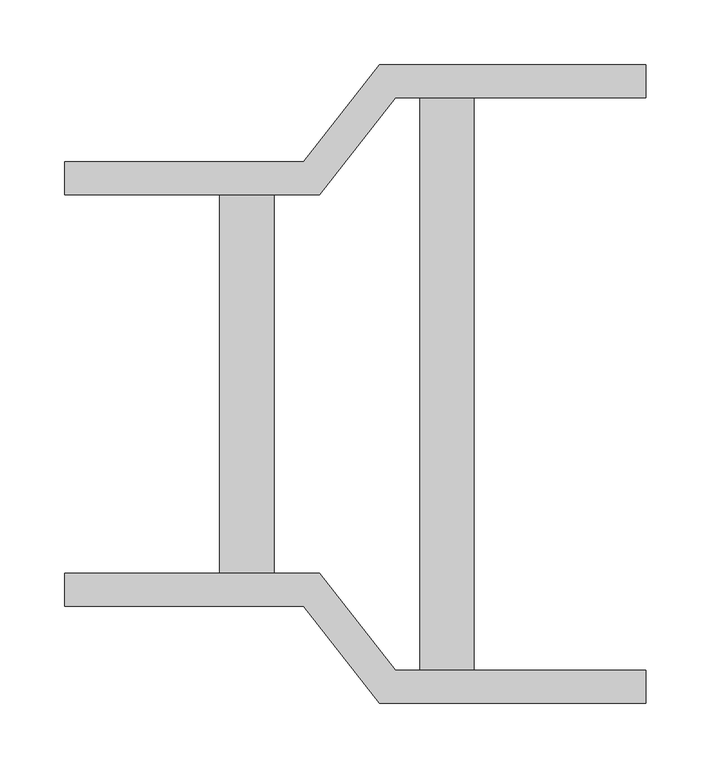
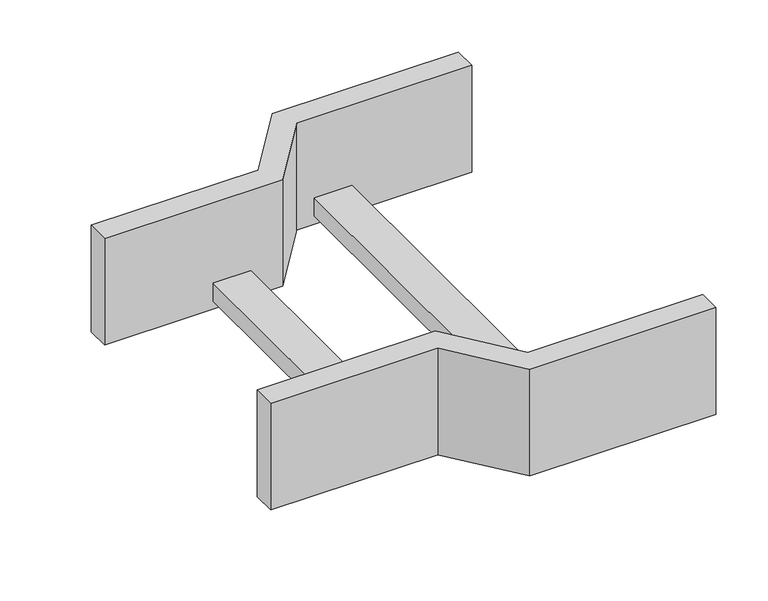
"""IFC4 building model written with IfcOpenShell, lengths in millimetres: cable carrier fitting geometry, Legrand_CableLadder_Swifts_Sapphire_Reducer-13 : Straight - Hot Dip Galvanised (after manufacture)."""

import ifcopenshell
import ifcopenshell.guid

model = None  # the IFC model being written
_history = None  # IfcOwnerHistory: only IFC2X3 demands one
_inside = {}  # id of a spatial element -> (the spatial element, [elements in it])
_under = {}  # id of a project, library or spatial element -> (it, [spatial elements below it])
_declared = {}  # id of a project -> (the project, [libraries it declares])
_typed = {}  # id of a type object -> (the type object, [elements of that type])
_made_of = {}  # id of a material, layer set ... -> (it, [elements and type objects made of it])


def new_model(schema):
    """Start an empty IFC model of exactly this schema.

    Asked for "IFC4X3", IfcOpenShell would pick the latest addendum, in which some entities
    have other attributes; the version numbers below select the first issue.
    IFC2X3 requires an IfcOwnerHistory on every rooted entity: one is made here for all.
    """
    global model, _history
    if schema == "IFC4X3":
        model = ifcopenshell.file(schema_version=(4, 3, 0, 0))
    else:
        model = ifcopenshell.file(schema=schema)
    _inside.clear()
    _under.clear()
    _declared.clear()
    _typed.clear()
    _made_of.clear()
    _history = None
    if model.schema == "IFC2X3":
        org = make("IfcOrganization", Name="unknown")
        user = make(
            "IfcPersonAndOrganization",
            ThePerson=make("IfcPerson", FamilyName="unknown"),
            TheOrganization=org,
        )
        app = make(
            "IfcApplication",
            ApplicationDeveloper=org,
            Version="unknown",
            ApplicationFullName="unknown",
            ApplicationIdentifier="unknown",
        )
        _history = make(
            "IfcOwnerHistory",
            OwningUser=user,
            OwningApplication=app,
            ChangeAction="ADDED",
            CreationDate=0,
        )
    return model


def make(cls, **values):
    """One entity of the class cls with the attributes given. An attribute that is None is left unset."""
    return model.create_entity(
        cls, **{name: value for name, value in values.items() if value is not None}
    )


def rooted(cls, **values):
    """An entity with a GlobalId (a new one), such as an element, a storey or a relation."""
    return make(cls, GlobalId=ifcopenshell.guid.new(), OwnerHistory=_history, **values)


def si_unit(unit_type, name, prefix=None):
    """IfcSIUnit, for example si_unit("LENGTHUNIT", "METRE", prefix="MILLI")."""
    return make("IfcSIUnit", UnitType=unit_type, Prefix=prefix, Name=name)


def assignment(units):
    """IfcUnitAssignment: the units of a project."""
    return None if units is None else make("IfcUnitAssignment", Units=units)


def point(xyz):
    """IfcCartesianPoint."""
    return None if xyz is None else make("IfcCartesianPoint", Coordinates=xyz)


def direction(xyz):
    """IfcDirection."""
    return None if xyz is None else make("IfcDirection", DirectionRatios=xyz)


def frame(location, z_axis=None, x_axis=None):
    """IfcAxis2Placement3D, a coordinate frame: its origin and axes. An axis left out is left unset."""
    return make(
        "IfcAxis2Placement3D",
        Location=point(location),
        Axis=direction(z_axis),
        RefDirection=direction(x_axis),
    )


def origin():
    """The frame at (0, 0, 0) with its axes left unset."""
    return frame((0.0, 0.0, 0.0))


def place(relative_to, where):
    """IfcLocalPlacement: puts the frame where relative to a parent placement (None: the world)."""
    return make(
        "IfcLocalPlacement", PlacementRelTo=relative_to, RelativePlacement=where
    )


def context(
    kind, dimensions, precision=None, world=None, true_north=None, identifier=None
):
    """IfcGeometricRepresentationContext, for example the 3D "Model" context."""
    return make(
        "IfcGeometricRepresentationContext",
        ContextIdentifier=identifier,
        ContextType=kind,
        CoordinateSpaceDimension=dimensions,
        Precision=precision,
        WorldCoordinateSystem=world,
        TrueNorth=true_north,
    )


def project(units=None, contexts=None):
    """IfcProject with its units and contexts."""
    return rooted(
        "IfcProject",
        Name="project",
        RepresentationContexts=contexts,
        UnitsInContext=assignment(units),
    )


def spatial(cls, under=None, at=None, **own):
    """A site, building, storey or space (cls), placed at a placement, below another one or the project."""
    s = rooted(cls, ObjectPlacement=at, **own)
    if under is not None:
        _under.setdefault(under.id(), (under, []))[1].append(s)
    return s


def polyline(points):
    """IfcPolyline through the points."""
    return make("IfcPolyline", Points=[point(p) for p in points])


def outline(outer, holes=None, kind="AREA"):
    """IfcArbitraryClosedProfileDef: a profile drawn as a closed curve; with holes, ...WithVoids."""
    if holes is None:
        return make("IfcArbitraryClosedProfileDef", ProfileType=kind, OuterCurve=outer)
    return make(
        "IfcArbitraryProfileDefWithVoids",
        ProfileType=kind,
        OuterCurve=outer,
        InnerCurves=holes,
    )


def extrude(swept, where, along, depth):
    """IfcExtrudedAreaSolid: the profile swept, set in the frame where, extruded along a direction by depth."""
    return make(
        "IfcExtrudedAreaSolid",
        SweptArea=swept,
        Position=where,
        ExtrudedDirection=direction(along),
        Depth=depth,
    )


def shape(context_of_items, identifier, shape_type, items):
    """IfcShapeRepresentation: the items that make up one representation, for example the "Body"."""
    return make(
        "IfcShapeRepresentation",
        ContextOfItems=context_of_items,
        RepresentationIdentifier=identifier,
        RepresentationType=shape_type,
        Items=items,
    )


def source(mapping_origin, context_of_items, identifier, shape_type, items):
    """IfcRepresentationMap: a shape defined once, which mapped items show again and again."""
    return make(
        "IfcRepresentationMap",
        MappingOrigin=mapping_origin,
        MappedRepresentation=shape(context_of_items, identifier, shape_type, items),
    )


def transform(
    local_origin,
    x_axis=None,
    y_axis=None,
    z_axis=None,
    scale=None,
    scale2=None,
    scale3=None,
    uniform=True,
):
    """IfcCartesianTransformationOperator3D, or its non-uniform kind. x_axis, y_axis, z_axis: its Axis1, 2, 3."""
    if uniform:
        return make(
            "IfcCartesianTransformationOperator3D",
            Axis1=direction(x_axis),
            Axis2=direction(y_axis),
            LocalOrigin=point(local_origin),
            Scale=scale,
            Axis3=direction(z_axis),
        )
    return make(
        "IfcCartesianTransformationOperator3DnonUniform",
        Axis1=direction(x_axis),
        Axis2=direction(y_axis),
        LocalOrigin=point(local_origin),
        Scale=scale,
        Axis3=direction(z_axis),
        Scale2=scale2,
        Scale3=scale3,
    )


def mapped(mapping_source, mapping_target):
    """IfcMappedItem: shows the shape of a source again, moved by a transform."""
    return make(
        "IfcMappedItem", MappingSource=mapping_source, MappingTarget=mapping_target
    )


def made_of(thing, what):
    """Note that an element or type object is made of a material, layer set ...; save() writes the relation."""
    if what is not None:
        _made_of.setdefault(what.id(), (what, []))[1].append(thing)
    return thing


def element(
    cls,
    number,
    at=None,
    inside=None,
    cuts=None,
    type_object=None,
    material=None,
    context=None,
    identifier="Body",
    shape_type=None,
    held_by="IfcProductDefinitionShape",
    body=None,
    shapes=None,
    **own,
):
    """One element of the class cls, such as IfcWall. Its Tag is "e" and its number.

    at: its placement. inside: the storey or other place that contains it. cuts: it is an
    opening in that element (IfcRelVoidsElement). A single representation is given by context,
    identifier, shape_type and body (its items); several are given by shapes. held_by: the class
    of the entity that holds the representations. save() writes the other relations.
    """
    e = rooted(cls, Tag="e%d" % number, ObjectPlacement=at, **own)
    if body is not None:
        shapes = [shape(context, identifier, shape_type, body)]
    if shapes is not None:
        e.Representation = make(held_by, Representations=shapes)
    if inside is not None:
        _inside.setdefault(inside.id(), (inside, []))[1].append(e)
    if cuts is not None:
        rooted(
            "IfcRelVoidsElement", RelatingBuildingElement=cuts, RelatedOpeningElement=e
        )
    if type_object is not None:
        _typed.setdefault(type_object.id(), (type_object, []))[1].append(e)
    return made_of(e, material)


def aggregate(whole, parts):
    """IfcRelAggregates: a whole, such as a stair, and the parts it consists of."""
    return rooted("IfcRelAggregates", RelatingObject=whole, RelatedObjects=parts)


def save(model, path):
    """Write the relations noted so far, then the file.

    IfcRelAggregates (storeys below a building ...), IfcRelContainedInSpatialStructure (elements
    in a storey), IfcRelDefinesByType, IfcRelAssociatesMaterial and IfcRelDeclares: one each for
    every whole, place, type object, material and project.
    """
    for whole, parts in _under.values():
        aggregate(whole, parts)
    for where, things in _inside.values():
        rooted(
            "IfcRelContainedInSpatialStructure",
            RelatedElements=things,
            RelatingStructure=where,
        )
    for kind, things in _typed.values():
        rooted("IfcRelDefinesByType", RelatedObjects=things, RelatingType=kind)
    for what, things in _made_of.values():
        rooted("IfcRelAssociatesMaterial", RelatedObjects=things, RelatingMaterial=what)
    for by, libraries in _declared.values():
        rooted("IfcRelDeclares", RelatingContext=by, RelatedDefinitions=libraries)
    model.write(path)


def cable_carrier_fitting_a240c298(model_context):
    return source(origin(), model_context, "Body", "SweptSolid", [
        extrude(outline(polyline([(-225.0, 146.5), (-225.0, 172.0), (-40.030989, 172.0), (18.7964757, 247.0), (225.0, 247.0), (225.0, 221.5), (31.2035243, 221.5), (-27.6239404, 146.5), (-225.0, 146.5)])), frame((0.0, 0.0, -62.5), z_axis=(0.0, 0.0, 1.0), x_axis=(1.0, 0.0, 0.0)), (0.0, 0.0, 1.0), 125.0),
        extrude(outline(polyline([(-225.0, -172.0), (-225.0, -146.5), (-27.6239404, -146.5), (31.2035243, -221.5), (225.0, -221.5), (225.0, -247.0), (18.7964757, -247.0), (-40.030989, -172.0), (-225.0, -172.0)])), frame((0.0, 0.0, -62.5), z_axis=(0.0, 0.0, 1.0), x_axis=(1.0, 0.0, 0.0)), (0.0, 0.0, 1.0), 125.0),
        extrude(outline(polyline([(92.0, 221.5), (92.0, -221.5), (50.0, -221.5), (50.0, 221.5), (92.0, 221.5)])), frame((0.0, 0.0, -52.5), z_axis=(0.0, 0.0, 1.0), x_axis=(1.0, 0.0, 0.0)), (0.0, 0.0, 1.0), 21.0),
        extrude(outline(polyline([(-105.0, -146.5), (-105.0, 146.5), (-63.0, 146.5), (-63.0, -146.5), (-105.0, -146.5)])), frame((0.0, 0.0, -52.5), z_axis=(0.0, 0.0, 1.0), x_axis=(1.0, 0.0, 0.0)), (0.0, 0.0, 1.0), 21.0),
    ])


if __name__ == "__main__":
    model = new_model("IFC4")
    model_context = context("Model", 3, world=origin())
    ifc_project = project(units=[si_unit("LENGTHUNIT", "METRE", prefix="MILLI")], contexts=[model_context])
    site = spatial("IfcSite", under=ifc_project)
    building = spatial("IfcBuilding", under=site)
    placement = place(None, origin())
    cable_carrier_fitting_shape = cable_carrier_fitting_a240c298(model_context)
    element("IfcCableCarrierFitting", 1, ObjectType="Legrand_CableLadder_Swifts_Sapphire_Reducer-13 : Straight - Hot Dip Galvanised (after manufacture)", at=placement, inside=building, context=model_context, shape_type="MappedRepresentation", body=[
        mapped(cable_carrier_fitting_shape, transform((0.0, 0.0, 0.0), x_axis=(1.0, 0.0, 0.0), y_axis=(0.0, 1.0, 0.0), z_axis=(0.0, 0.0, 1.0))),
    ])
    save(model, "model.ifc")
